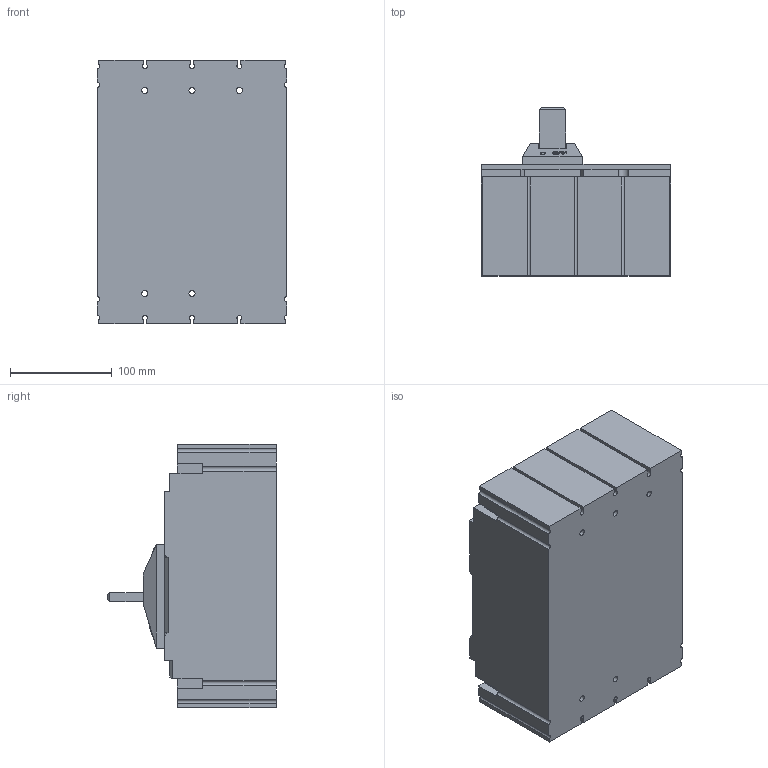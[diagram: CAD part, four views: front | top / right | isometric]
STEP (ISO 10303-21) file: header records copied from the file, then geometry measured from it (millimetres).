
FILE_DESCRIPTION(/* description */ ('','CAx-IF Rec.Pracs.---Representation and Presentation of Product Manufacturing Information (PMI)---3.8---2014-02-18'),/* implementation_level */ '2;1');
FILE_NAME(/* name */ 'E:\3D model\43-susol-mccb-630af-iec-4pr.stp',/* time_stamp */ '2017-11-09T14:53:04+03:00',/* author */ ('dobrin'),/* organization */ (''),/* preprocessor_version */ 'ST-DEVELOPER v16.13',/* originating_system */ 'Autodesk Inventor 2018',/* authorisation */ '');
FILE_SCHEMA (('AP242_MANAGED_MODEL_BASED_3D_ENGINEERING_MIM_LF { 1 0 10303 442 1 1 4 }'));
Length unit declared in the file: metre
Products named in the file (1): 43-susol-mccb-630af-iec-4pr
Bounding box: 186.5 x 166 x 260 mm (x, y, z)
Volume: 5178661.4 mm3; surface area: 227511.8 mm2
Topology: 1 solids, 1 shells, 407 faces, 1078 edges, 706 vertices
Faces by surface type: plane 323, cylinder 64, cone 13, torus 7
Full cylindrical faces by diameter (mm): 5 x6, 6 x5, 11.4 x8, 18.6 x8
Entity records: 12243 total; most frequent: CARTESIAN_POINT 2138, ORIENTED_EDGE 2030, DIRECTION 2019, EDGE_CURVE 1015, LINE 861, VECTOR 861, VERTEX_POINT 690, AXIS2_PLACEMENT_3D 583
